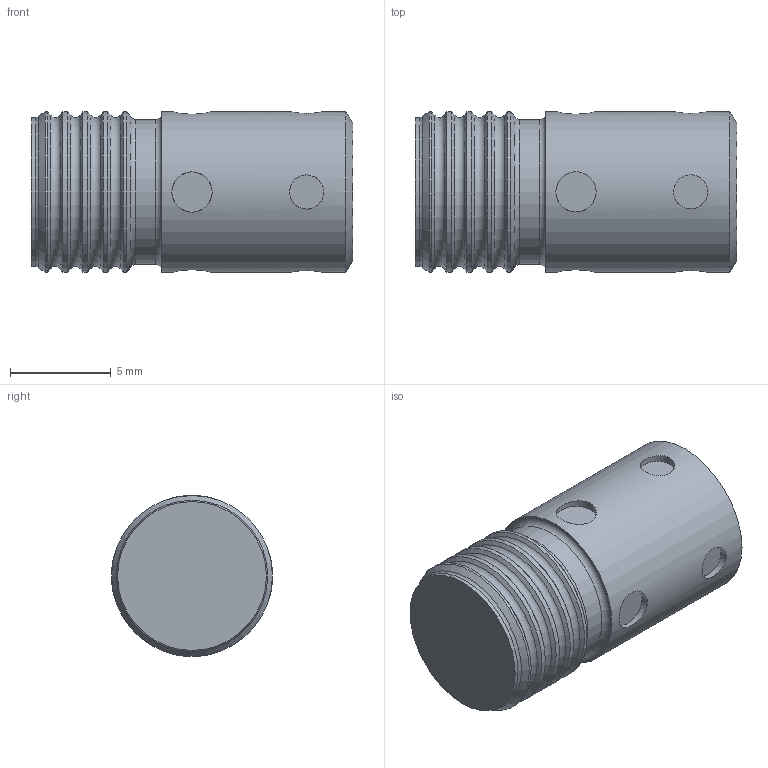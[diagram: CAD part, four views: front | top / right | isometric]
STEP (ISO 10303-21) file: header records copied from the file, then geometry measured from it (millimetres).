
FILE_DESCRIPTION(/* description */ ('LEE CHEK, 832 SERIES, FORWARD'),/* implementation_level */ '2;1');
FILE_NAME(/* name */ '\\ABSOLUTE\SmWork\Vernon\CCFM83210XXS.stp',/* time_stamp */ '2021-03-23T14:07:59-04:00',/* author */ ('VernonJ'),/* organization */ (''),/* preprocessor_version */ 'ST-DEVELOPER v18',/* originating_system */ 'Autodesk Inventor 2020',/* authorisation */ '');
FILE_SCHEMA (('AUTOMOTIVE_DESIGN { 1 0 10303 214 3 1 1 }'));
Length unit declared in the file: millimetre
Products named in the file (1): CCFM83210XXS
Bounding box: 16 x 8 x 8 mm (x, y, z)
Volume: 760.9 mm3; surface area: 532.9 mm2
Topology: 1 solids, 1 shells, 45 faces, 137 edges, 101 vertices
Faces by surface type: cylinder 16, plane 11, cone 11, torus 7
Full cylindrical faces by diameter (mm): 1.7 x4, 2 x4, 7.2 x1, 7.4 x1, 8 x6
Entity records: 1924 total; most frequent: CARTESIAN_POINT 564, DIRECTION 305, ORIENTED_EDGE 274, AXIS2_PLACEMENT_3D 138, EDGE_CURVE 137, VERTEX_POINT 101, CIRCLE 92, EDGE_LOOP 52
